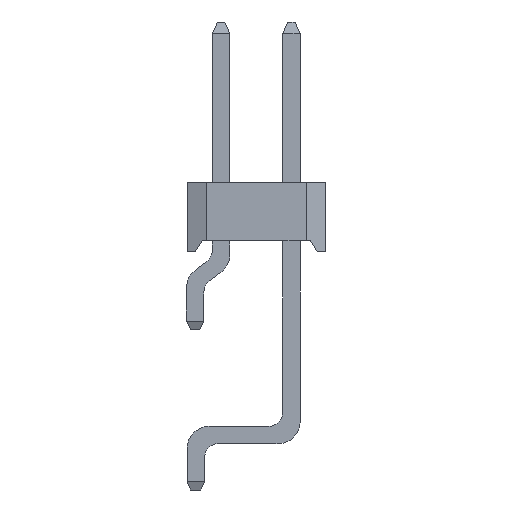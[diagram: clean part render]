
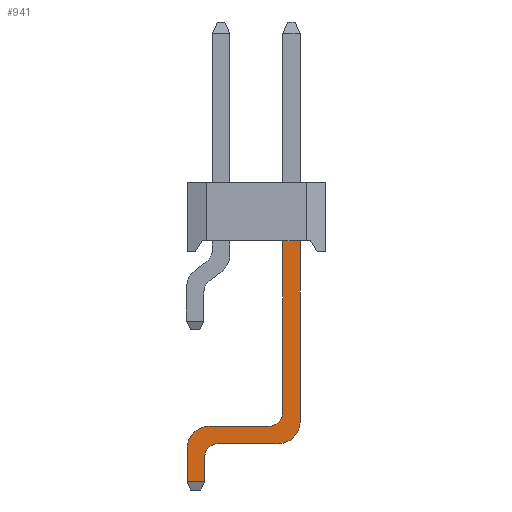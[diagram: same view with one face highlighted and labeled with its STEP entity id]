
A CAD part, left-side view. The second image highlights one B-rep face of the part: STEP entity #941.
In plain terms, the highlighted planar face has unit normal (-1, 0, 0).
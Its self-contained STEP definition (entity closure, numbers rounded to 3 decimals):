
#258=CIRCLE('',#16530,0.8);
#259=CIRCLE('',#16531,0.5);
#260=CIRCLE('',#16532,0.8);
#261=CIRCLE('',#16533,0.5);
#941=ADVANCED_FACE('',(#2571),#1757,.T.);
#1757=PLANE('',#16534);
#2571=FACE_OUTER_BOUND('',#3499,.T.);
#3499=EDGE_LOOP('',(#6634,#6635,#6636,#6637,#6638,#6639,#6640,#6641,#6642,
#6643,#6644,#6645));
#6634=ORIENTED_EDGE('',*,*,#11144,.T.);
#6635=ORIENTED_EDGE('',*,*,#11145,.T.);
#6636=ORIENTED_EDGE('',*,*,#11146,.F.);
#6637=ORIENTED_EDGE('',*,*,#9846,.F.);
#6638=ORIENTED_EDGE('',*,*,#11147,.T.);
#6639=ORIENTED_EDGE('',*,*,#11148,.T.);
#6640=ORIENTED_EDGE('',*,*,#11149,.F.);
#6641=ORIENTED_EDGE('',*,*,#11150,.T.);
#6642=ORIENTED_EDGE('',*,*,#11151,.T.);
#6643=ORIENTED_EDGE('',*,*,#11152,.T.);
#6644=ORIENTED_EDGE('',*,*,#11153,.F.);
#6645=ORIENTED_EDGE('',*,*,#11154,.T.);
#8442=VERTEX_POINT('',#21511);
#8443=VERTEX_POINT('',#21512);
#9258=VERTEX_POINT('',#24114);
#9259=VERTEX_POINT('',#24115);
#9260=VERTEX_POINT('',#24117);
#9261=VERTEX_POINT('',#24120);
#9262=VERTEX_POINT('',#24122);
#9263=VERTEX_POINT('',#24124);
#9264=VERTEX_POINT('',#24126);
#9265=VERTEX_POINT('',#24128);
#9266=VERTEX_POINT('',#24130);
#9267=VERTEX_POINT('',#24132);
#9846=EDGE_CURVE('',#8442,#8443,#12064,.T.);
#11144=EDGE_CURVE('',#9258,#9259,#13250,.T.);
#11145=EDGE_CURVE('',#9259,#9260,#258,.T.);
#11146=EDGE_CURVE('',#8443,#9260,#13251,.T.);
#11147=EDGE_CURVE('',#8442,#9261,#13252,.T.);
#11148=EDGE_CURVE('',#9261,#9262,#259,.T.);
#11149=EDGE_CURVE('',#9263,#9262,#13253,.T.);
#11150=EDGE_CURVE('',#9263,#9264,#260,.T.);
#11151=EDGE_CURVE('',#9264,#9265,#13254,.T.);
#11152=EDGE_CURVE('',#9265,#9266,#13255,.T.);
#11153=EDGE_CURVE('',#9267,#9266,#13256,.T.);
#11154=EDGE_CURVE('',#9267,#9258,#261,.T.);
#12064=LINE('',#21510,#14058);
#13250=LINE('',#24113,#15244);
#13251=LINE('',#24118,#15245);
#13252=LINE('',#24119,#15246);
#13253=LINE('',#24123,#15247);
#13254=LINE('',#24127,#15248);
#13255=LINE('',#24129,#15249);
#13256=LINE('',#24131,#15250);
#14058=VECTOR('',#17199,1.);
#15244=VECTOR('',#19587,1.);
#15245=VECTOR('',#19590,1.);
#15246=VECTOR('',#19591,1.);
#15247=VECTOR('',#19594,1.);
#15248=VECTOR('',#19597,1.);
#15249=VECTOR('',#19598,1.);
#15250=VECTOR('',#19599,1.);
#16530=AXIS2_PLACEMENT_3D('',#24116,#19588,#19589);
#16531=AXIS2_PLACEMENT_3D('',#24121,#19592,#19593);
#16532=AXIS2_PLACEMENT_3D('',#24125,#19595,#19596);
#16533=AXIS2_PLACEMENT_3D('',#24133,#19600,#19601);
#16534=AXIS2_PLACEMENT_3D('',#24134,#19602,#19603);
#17199=DIRECTION('',(0.,-1.,0.));
#19587=DIRECTION('',(0.,-1.,0.));
#19588=DIRECTION('',(-1.,0.,0.));
#19589=DIRECTION('',(0.,-1.,0.));
#19590=DIRECTION('',(0.,0.,-1.));
#19591=DIRECTION('',(0.,0.,-1.));
#19592=DIRECTION('',(1.,0.,0.));
#19593=DIRECTION('',(0.,-1.,0.));
#19594=DIRECTION('',(0.,-1.,0.));
#19595=DIRECTION('',(-1.,0.,0.));
#19596=DIRECTION('',(0.,-1.,0.));
#19597=DIRECTION('',(0.,0.,-1.));
#19598=DIRECTION('',(0.,-1.,0.));
#19599=DIRECTION('',(0.,0.,-1.));
#19600=DIRECTION('',(1.,0.,0.));
#19601=DIRECTION('',(0.,-1.,0.));
#19602=DIRECTION('',(-1.,0.,0.));
#19603=DIRECTION('',(0.,-1.,0.));
#21510=CARTESIAN_POINT('',(0.955,1.545,0.));
#21511=CARTESIAN_POINT('',(0.955,1.545,0.));
#21512=CARTESIAN_POINT('',(0.955,0.915,0.));
#24113=CARTESIAN_POINT('',(0.955,5.,-7.33));
#24114=CARTESIAN_POINT('',(0.955,3.87,-7.33));
#24115=CARTESIAN_POINT('',(0.955,1.715,-7.33));
#24116=CARTESIAN_POINT('',(0.955,1.715,-6.53));
#24117=CARTESIAN_POINT('',(0.955,0.915,-6.53));
#24118=CARTESIAN_POINT('',(0.955,0.915,-6.7));
#24119=CARTESIAN_POINT('',(0.955,1.545,-6.7));
#24120=CARTESIAN_POINT('',(0.955,1.545,-6.2));
#24121=CARTESIAN_POINT('',(0.955,2.045,-6.2));
#24122=CARTESIAN_POINT('',(0.955,2.045,-6.7));
#24123=CARTESIAN_POINT('',(0.955,5.,-6.7));
#24124=CARTESIAN_POINT('',(0.955,4.2,-6.7));
#24125=CARTESIAN_POINT('',(0.955,4.2,-7.5));
#24126=CARTESIAN_POINT('',(0.955,5.,-7.5));
#24127=CARTESIAN_POINT('',(0.955,5.,-7.33));
#24128=CARTESIAN_POINT('',(0.955,5.,-8.7));
#24129=CARTESIAN_POINT('',(0.955,1.545,-8.7));
#24130=CARTESIAN_POINT('',(0.955,4.37,-8.7));
#24131=CARTESIAN_POINT('',(0.955,4.37,-9.));
#24132=CARTESIAN_POINT('',(0.955,4.37,-7.83));
#24133=CARTESIAN_POINT('',(0.955,3.87,-7.83));
#24134=CARTESIAN_POINT('',(0.955,1.545,0.));
